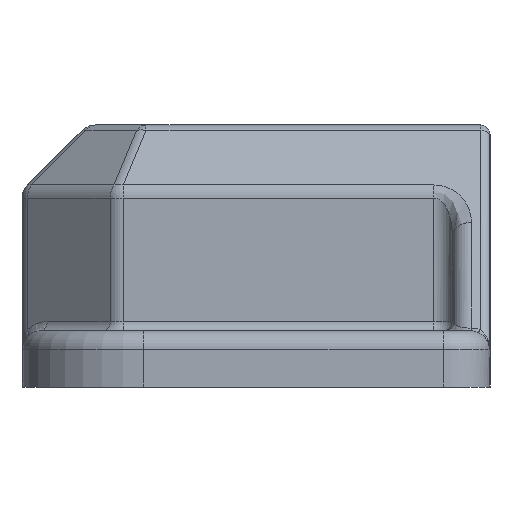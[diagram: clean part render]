
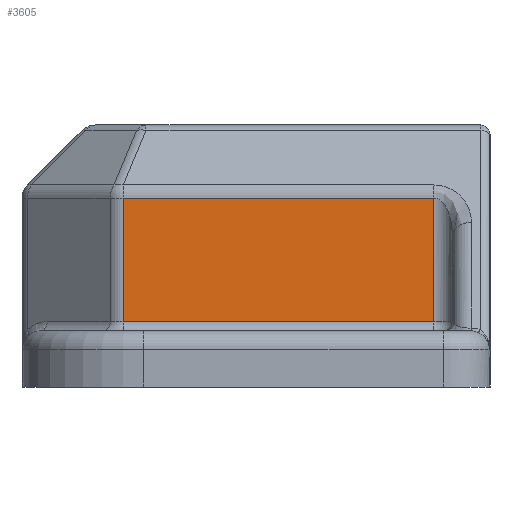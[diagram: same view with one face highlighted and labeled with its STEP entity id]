
A CAD part, left-side view. The second image highlights one B-rep face of the part: STEP entity #3605.
In plain terms, the highlighted planar face has unit normal (-1, 0, 0).
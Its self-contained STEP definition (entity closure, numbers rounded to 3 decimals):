
#242 = LINE ( 'NONE', #3524, #244 ) ;
#244 = VECTOR ( 'NONE', #3526, 1000. ) ;
#269 = LINE ( 'NONE', #4300, #272 ) ;
#272 = VECTOR ( 'NONE', #4288, 1000. ) ;
#351 = LINE ( 'NONE', #5588, #353 ) ;
#353 = VECTOR ( 'NONE', #5589, 1000. ) ;
#419 = LINE ( 'NONE', #1681, #421 ) ;
#421 = VECTOR ( 'NONE', #1689, 1000. ) ;
#1140 = VERTEX_POINT ( 'NONE', #5239 ) ;
#1279 = VERTEX_POINT ( 'NONE', #5244 ) ;
#1588 = EDGE_LOOP ( 'NONE', ( #2546, #2530, #2484, #2498 ) ) ;
#1681 = CARTESIAN_POINT ( 'NONE',  ( 10., 3., 3.5 ) ) ;
#1689 = DIRECTION ( 'NONE',  ( 0., -1., 0. ) ) ;
#1961 = FACE_OUTER_BOUND ( 'NONE', #1588, .T. ) ;
#2484 = ORIENTED_EDGE ( 'NONE', *, *, #4892, .T. ) ;
#2498 = ORIENTED_EDGE ( 'NONE', *, *, #4012, .T. ) ;
#2530 = ORIENTED_EDGE ( 'NONE', *, *, #4951, .T. ) ;
#2546 = ORIENTED_EDGE ( 'NONE', *, *, #3991, .T. ) ;
#3524 = CARTESIAN_POINT ( 'NONE',  ( 10., 19.586, -29.155 ) ) ;
#3526 = DIRECTION ( 'NONE',  ( 0., 0., -1. ) ) ;
#3605 = ADVANCED_FACE ( 'NONE', ( #1961 ), #6262, .F. ) ;
#3991 = EDGE_CURVE ( 'NONE', #5850, #5854, #242, .T. ) ;
#4012 = EDGE_CURVE ( 'NONE', #1279, #5850, #269, .T. ) ;
#4288 = DIRECTION ( 'NONE',  ( 0., 1., 0. ) ) ;
#4300 = CARTESIAN_POINT ( 'NONE',  ( 10., 19.586, 10.086 ) ) ;
#4892 = EDGE_CURVE ( 'NONE', #1140, #1279, #351, .T. ) ;
#4951 = EDGE_CURVE ( 'NONE', #5854, #1140, #419, .T. ) ;
#5028 = AXIS2_PLACEMENT_3D ( 'NONE', #6261, #6266, #6267 ) ;
#5239 = CARTESIAN_POINT ( 'NONE',  ( 10., 3., 3.5 ) ) ;
#5244 = CARTESIAN_POINT ( 'NONE',  ( 10., 3., 10.086 ) ) ;
#5588 = CARTESIAN_POINT ( 'NONE',  ( 10., 3., 10.5 ) ) ;
#5589 = DIRECTION ( 'NONE',  ( 0., 0., 1. ) ) ;
#5850 = VERTEX_POINT ( 'NONE', #6069 ) ;
#5854 = VERTEX_POINT ( 'NONE', #6073 ) ;
#6069 = CARTESIAN_POINT ( 'NONE',  ( 10., 19.586, 10.086 ) ) ;
#6073 = CARTESIAN_POINT ( 'NONE',  ( 10., 19.586, 3.5 ) ) ;
#6261 = CARTESIAN_POINT ( 'NONE',  ( 10., 20., -29.155 ) ) ;
#6262 = PLANE ( 'NONE',  #5028 ) ;
#6266 = DIRECTION ( 'NONE',  ( 1., 0., 0. ) ) ;
#6267 = DIRECTION ( 'NONE',  ( 0., 0., -1. ) ) ;
